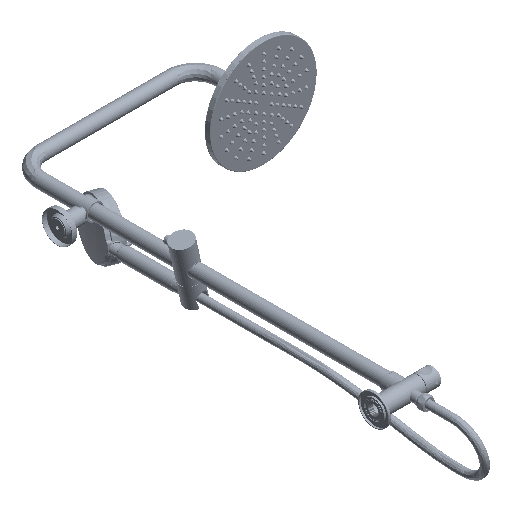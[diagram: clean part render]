
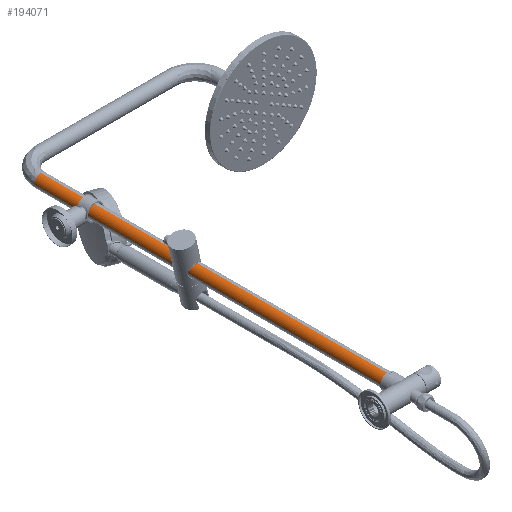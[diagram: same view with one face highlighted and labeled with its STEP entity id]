
A CAD part, isometric view. The second image highlights one B-rep face of the part: STEP entity #194071.
In plain terms, the highlighted cylindrical face has radius 12.5 mm (diameter 25 mm), a partial arc.
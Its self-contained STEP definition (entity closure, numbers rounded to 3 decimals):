
#3495 = CARTESIAN_POINT ( 'NONE',  ( -12.5, 0., 0. ) ) ;
#6431 = CARTESIAN_POINT ( 'NONE',  ( 0., 0., 12.5 ) ) ;
#15173 = AXIS2_PLACEMENT_3D ( 'NONE', #35075, #195851, #239605 ) ;
#17285 = EDGE_CURVE ( 'NONE', #95262, #235814, #169804, .T. ) ;
#32806 = EDGE_CURVE ( 'NONE', #229829, #95262, #167152, .T. ) ;
#34143 = VECTOR ( 'NONE', #109953, 1000. ) ;
#35075 = CARTESIAN_POINT ( 'NONE',  ( 0., 0., 0. ) ) ;
#36793 = EDGE_CURVE ( 'NONE', #76435, #229829, #181147, .T. ) ;
#54998 = CYLINDRICAL_SURFACE ( 'NONE', #15173, 12.5 ) ;
#57507 = CARTESIAN_POINT ( 'NONE',  ( 0., 0., 0. ) ) ;
#61915 = DIRECTION ( 'NONE',  ( 0., -1., 0. ) ) ;
#63592 = ORIENTED_EDGE ( 'NONE', *, *, #32806, .T. ) ;
#65057 = CARTESIAN_POINT ( 'NONE',  ( 0., 658., 0. ) ) ;
#65843 = LINE ( 'NONE', #3495, #158056 ) ;
#70927 = AXIS2_PLACEMENT_3D ( 'NONE', #57507, #164743, #104946 ) ;
#72726 = ORIENTED_EDGE ( 'NONE', *, *, #207235, .T. ) ;
#76435 = VERTEX_POINT ( 'NONE', #237719 ) ;
#95262 = VERTEX_POINT ( 'NONE', #191310 ) ;
#104946 = DIRECTION ( 'NONE',  ( 0., 0., 1. ) ) ;
#109953 = DIRECTION ( 'NONE',  ( 0., 1., 0. ) ) ;
#111958 = ORIENTED_EDGE ( 'NONE', *, *, #17285, .T. ) ;
#122288 = DIRECTION ( 'NONE',  ( 0., -1., 0. ) ) ;
#131826 = EDGE_LOOP ( 'NONE', ( #196852, #63592, #111958, #72726 ) ) ;
#158056 = VECTOR ( 'NONE', #61915, 1000. ) ;
#164743 = DIRECTION ( 'NONE',  ( 0., 1., 0. ) ) ;
#167152 = LINE ( 'NONE', #6431, #34143 ) ;
#169804 = CIRCLE ( 'NONE', #224981, 12.5 ) ;
#176831 = CARTESIAN_POINT ( 'NONE',  ( -12.5, 658., 0. ) ) ;
#181147 = CIRCLE ( 'NONE', #70927, 12.5 ) ;
#191310 = CARTESIAN_POINT ( 'NONE',  ( 0., 658., 12.5 ) ) ;
#194071 = ADVANCED_FACE ( 'NONE', ( #238330 ), #54998, .T. ) ;
#195851 = DIRECTION ( 'NONE',  ( 0., 1., 0. ) ) ;
#196852 = ORIENTED_EDGE ( 'NONE', *, *, #36793, .T. ) ;
#205917 = DIRECTION ( 'NONE',  ( 0., 0., 1. ) ) ;
#207235 = EDGE_CURVE ( 'NONE', #235814, #76435, #65843, .T. ) ;
#224981 = AXIS2_PLACEMENT_3D ( 'NONE', #65057, #122288, #205917 ) ;
#229482 = CARTESIAN_POINT ( 'NONE',  ( 0., 0., 12.5 ) ) ;
#229829 = VERTEX_POINT ( 'NONE', #229482 ) ;
#235814 = VERTEX_POINT ( 'NONE', #176831 ) ;
#237719 = CARTESIAN_POINT ( 'NONE',  ( -12.5, 0., 0. ) ) ;
#238330 = FACE_OUTER_BOUND ( 'NONE', #131826, .T. ) ;
#239605 = DIRECTION ( 'NONE',  ( 0., 0., 1. ) ) ;
